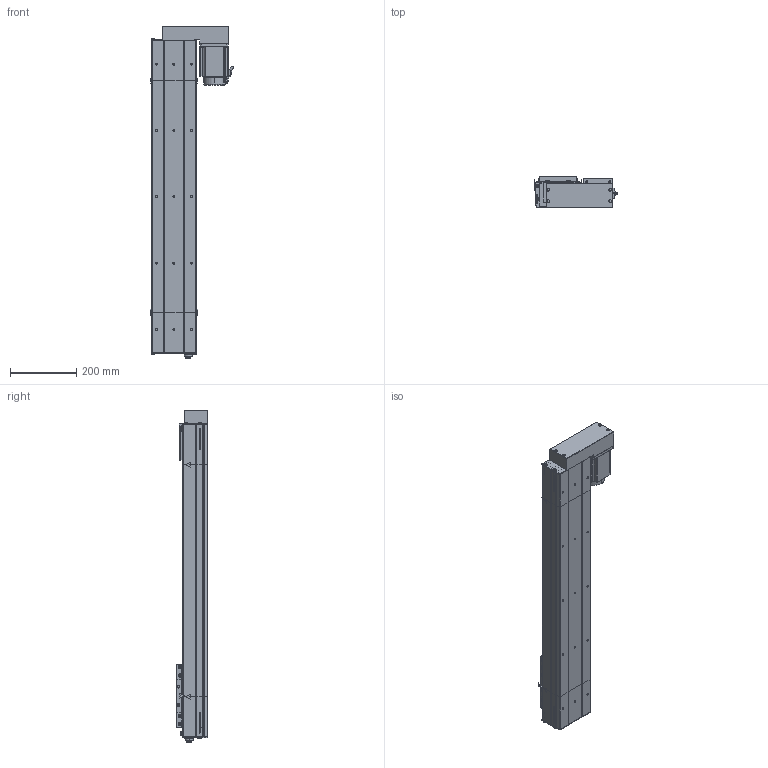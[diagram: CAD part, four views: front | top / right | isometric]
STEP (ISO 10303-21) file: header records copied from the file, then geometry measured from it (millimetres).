
FILE_DESCRIPTION (( 'STEP AP214' ), '1' );
FILE_NAME ('D14 CSH BL S700.STEP', '2010-06-29T15:17:04', ( 'Conseil Régional Haute-Normandie' ), ( 'Conseil Régional Haute-Normandie' ), 'SwSTEP 2.0', 'SolidWorks 2010', '' );
FILE_SCHEMA (( 'AUTOMOTIVE_DESIGN' ));
Length unit declared in the file: millimetre
Products named in the file (26): D14 CSH BL S700; Vis CHC M8; chariot D14; couvercle tail; plaque de maintient D14; charriot inférieur D14; vis CHC M5; vis CHC M7; chariot supérieur D14; GMB 90 100 310; plaque de bout tail d14; corps tail d14; avant GMB 90 100 310; plaque de bout head D14 BL; Tail D14; corps GMB 90 100 310; Conecteur2_Default; couvercle CSH course S700; corps head d14; corps  CSH 700; course CSH S700; vis CHC M5.5; Head D14 CSH BL; couvercle head d14; codeur GMB 90 100 310; Conecteur_Default
Assembly tree (48 placements, depth 4):
  D14 CSH BL S700
    chariot D14
      chariot supérieur D14
      vis CHC M7  x8
      vis CHC M5  x4
      charriot inférieur D14
    Head D14 CSH BL
      GMB 90 100 310
        Conecteur2_Default
        codeur GMB 90 100 310
        avant GMB 90 100 310
        Conecteur_Default
        corps GMB 90 100 310
      Vis CHC M8  x2
      vis CHC M5.5  x4
      corps head d14
      couvercle head d14
      vis CHC M7  x2
      plaque de bout head D14 BL
      plaque de maintient D14
    Tail D14
      Vis CHC M8  x2
      vis CHC M7  x4
      corps tail d14
      plaque de maintient D14
      couvercle tail
      plaque de bout tail d14
    course CSH S700
      corps  CSH 700
      couvercle CSH course S700
Bounding box: 250.75 x 95.75 x 1001.3 mm (x, y, z)
Volume: 4052866.6 mm3; surface area: 1123581.6 mm2
Topology: 49 solids, 49 shells, 2438 faces, 6265 edges, 4128 vertices
Faces by surface type: plane 1375, bspline 538, cylinder 412, torus 61, cone 52
Entity records: 107300 total; most frequent: CARTESIAN_POINT 57945, ORIENTED_EDGE 10782, DIRECTION 8048, EDGE_CURVE 5391, VECTOR 3634, LINE 3634, VERTEX_POINT 3576, EDGE_LOOP 2301
